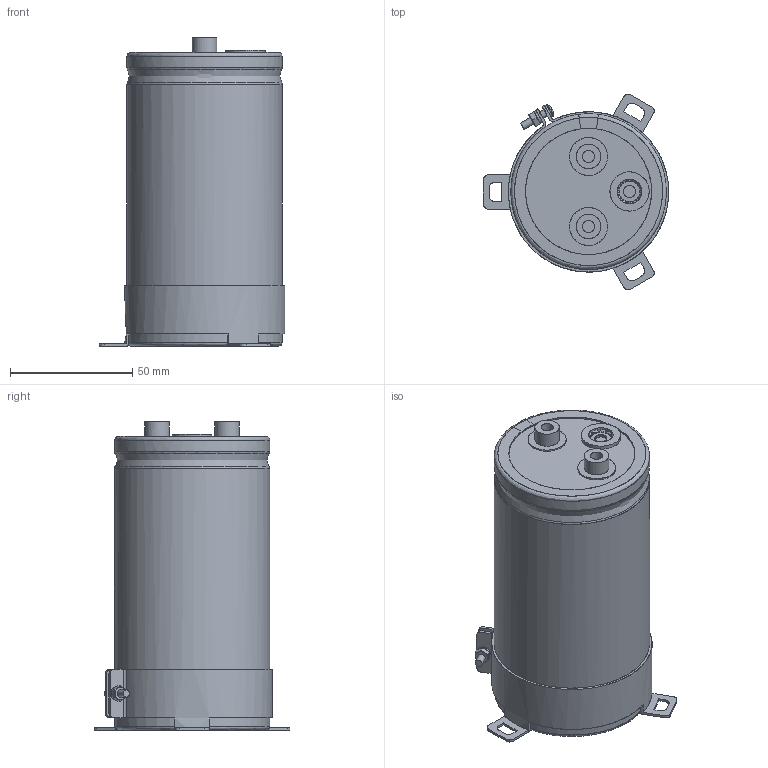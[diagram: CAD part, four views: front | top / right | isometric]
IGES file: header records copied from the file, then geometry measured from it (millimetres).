
Start section: JAMA-IS VERSION  1.0
Bounding box: 75.75 x 80.01 x 126 mm (x, y, z)
Surface area: 92878.9 mm2 (no closed solid volume)
Topology: 0 solids, 0 shells, 259 faces, 4436 edges, 4409 vertices
Faces by surface type: bspline 259
